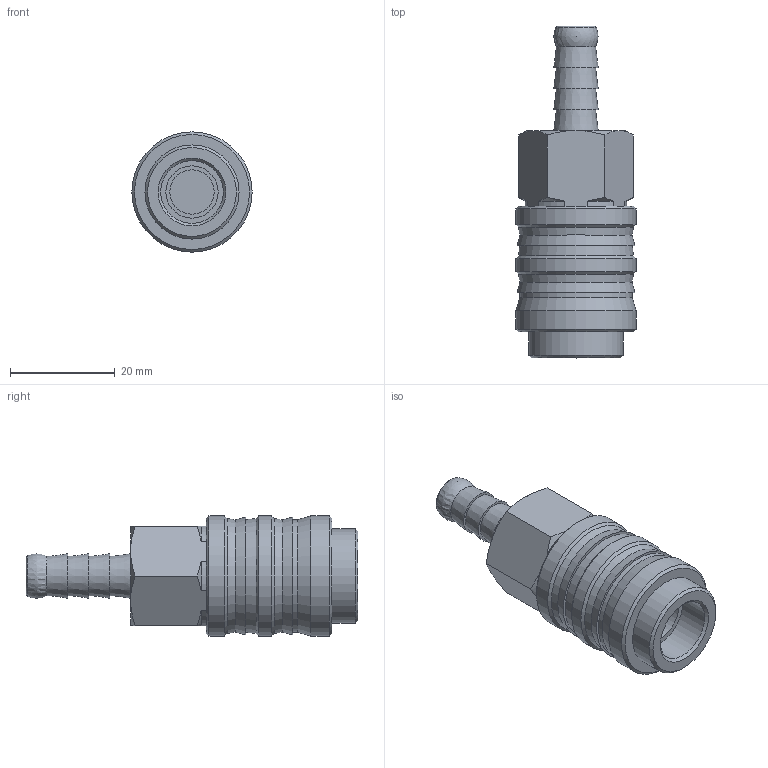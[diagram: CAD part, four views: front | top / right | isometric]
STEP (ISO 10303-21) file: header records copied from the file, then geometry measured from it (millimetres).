
FILE_DESCRIPTION(/* description */ (''),/* implementation_level */ '2;1');
FILE_NAME(/* name */ 'S:\_Tecnico\ArchivioUT\_Disegni3D ingombri\DISEGNI 3D per ingombri\GD\GD400008.stp',/* time_stamp */ '2019-11-26T08:57:29+01:00',/* author */ ('UfficioTecnico'),/* organization */ (''),/* preprocessor_version */ 'ST-DEVELOPER v18',/* originating_system */ 'Autodesk Inventor 2020',/* authorisation */ '');
FILE_SCHEMA (('AUTOMOTIVE_DESIGN { 1 0 10303 214 3 1 1 }'));
Length unit declared in the file: millimetre
Products named in the file (1): GD400008
Bounding box: 23 x 63.5 x 23 mm (x, y, z)
Volume: 13472.7 mm3; surface area: 5743.9 mm2
Topology: 1 solids, 1 shells, 66 faces, 172 edges, 120 vertices
Faces by surface type: cone 29, plane 20, cylinder 15, torus 1, sphere 1
Full cylindrical faces by diameter (mm): 5.5 x1, 8.5 x1, 10 x1, 12 x1, 18 x1, 21.5 x1, 23 x3
Entity records: 2107 total; most frequent: CARTESIAN_POINT 405, DIRECTION 376, ORIENTED_EDGE 340, EDGE_CURVE 170, AXIS2_PLACEMENT_3D 163, VERTEX_POINT 120, CIRCLE 96, EDGE_LOOP 80
